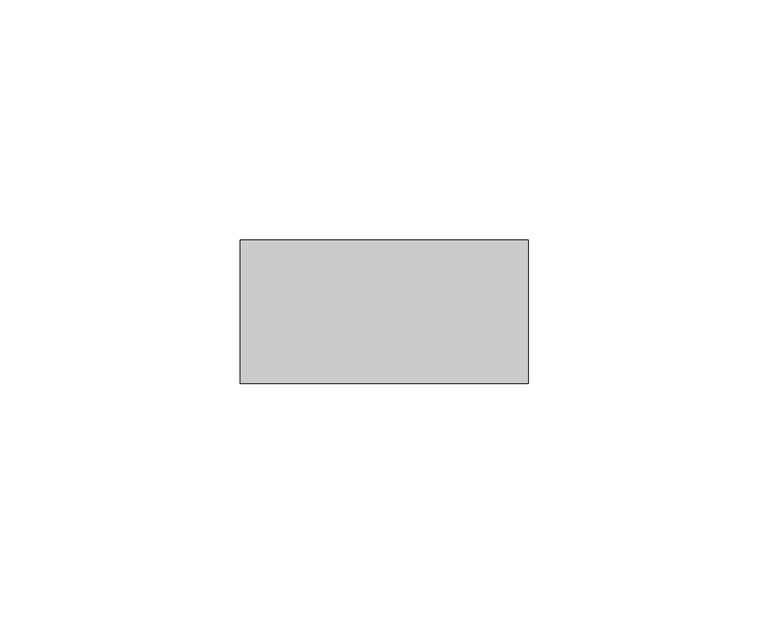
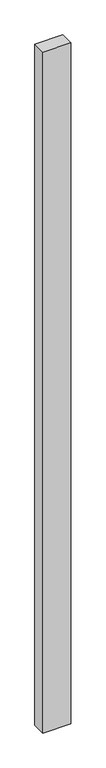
"""IFC4 building model written with IfcOpenShell, lengths in millimetres: member geometry, Прямоугольный импост : Квадрат 30 мм."""

from ifc_helpers import new_model, si_unit, frame, origin, place, context, project, spatial, polyline, outline, extrude, source, transform, mapped, element, save


def member_cb7b2cd2(model_context):
    return source(origin(), model_context, "Body", "SweptSolid", [
        extrude(outline(polyline([(30.0, 15.0), (30.0, -15.0), (-30.0, -15.0), (-30.0, 15.0), (30.0, 15.0)])), frame((0.0, 0.0, -1550.0), z_axis=(0.0, 0.0, 1.0), x_axis=(1.0, 0.0, 0.0)), (0.0, 0.0, 1.0), 1550.0),
    ])


if __name__ == "__main__":
    model = new_model("IFC4")
    model_context = context("Model", 3, world=origin())
    ifc_project = project(units=[si_unit("LENGTHUNIT", "METRE", prefix="MILLI")], contexts=[model_context])
    site = spatial("IfcSite", under=ifc_project)
    building = spatial("IfcBuilding", under=site)
    placement = place(None, origin())
    member_shape = member_cb7b2cd2(model_context)
    element("IfcMember", 1, ObjectType="Прямоугольный импост : Квадрат 30 мм", at=placement, inside=building, context=model_context, shape_type="MappedRepresentation", body=[
        mapped(member_shape, transform((0.0, 0.0, 0.0), x_axis=(1.0, 0.0, 0.0), y_axis=(0.0, 1.0, 0.0), z_axis=(0.0, 0.0, 1.0))),
    ])
    save(model, "model.ifc")
